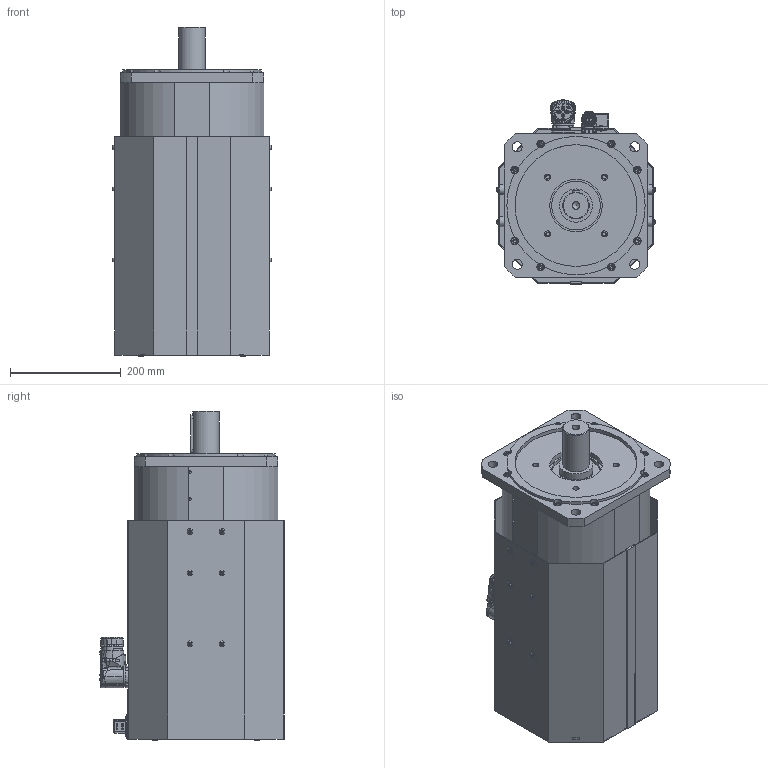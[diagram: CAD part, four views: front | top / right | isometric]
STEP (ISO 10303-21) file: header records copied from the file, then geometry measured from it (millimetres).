
FILE_DESCRIPTION(/* description */ (''),/* implementation_level */ '2;1');
FILE_NAME(/* name */ 'C:\Users\Public\Documents\Autodesk\Inventor LT 2014\Workspace\Motori Sito WEB\TG_7\NEW TG_7\DSF5_7\DSF5_73_x099.stp',/* time_stamp */ '2021-10-28T14:28:38+02:00',/* author */ ('marcor'),/* organization */ (''),/* preprocessor_version */ 'ST-DEVELOPER v15.2',/* originating_system */ 'Autodesk Inventor LT ',/* authorisation */ '');
FILE_SCHEMA (('AUTOMOTIVE_DESIGN { 1 0 10303 214 3 1 1 }'));
Products named in the file (1): DSF5_73_x099
Bounding box: 285.6 x 332.55 x 595.4 mm (x, y, z)
Volume: 24180004.1 mm3; surface area: 1847476.1 mm2
Topology: 40 solids, 67 shells, 2725 faces, 6724 edges, 4337 vertices
Faces by surface type: plane 1182, cylinder 595, cone 528, bspline 224, torus 159, sphere 37
Full cylindrical faces by diameter (mm): 1.2 x12, 2 x2, 2.013 x8, 2.2 x4, 2.224 x4, 2.4 x6, 2.459 x4, 2.5 x4, 2.88 x4, 3 x12, 3.242 x2, 3.26 x4, 3.5 x2, 3.6 x5, 4 x7, 4.5 x15, 4.8 x4, 4.917 x28, 5 x4, 5.4 x1, 5.5 x3, 5.9 x1, 6 x24, 6.5 x28, 6.647 x8, 7 x18, 7.5 x2, 8 x11, 8.376 x2, 8.5 x9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
Entity records: 87388 total; most frequent: CARTESIAN_POINT 26877, ORIENTED_EDGE 11622, DIRECTION 11587, EDGE_CURVE 5767, AXIS2_PLACEMENT_3D 4633, VERTEX_POINT 4057, EDGE_LOOP 3724, ADVANCED_FACE 2725
